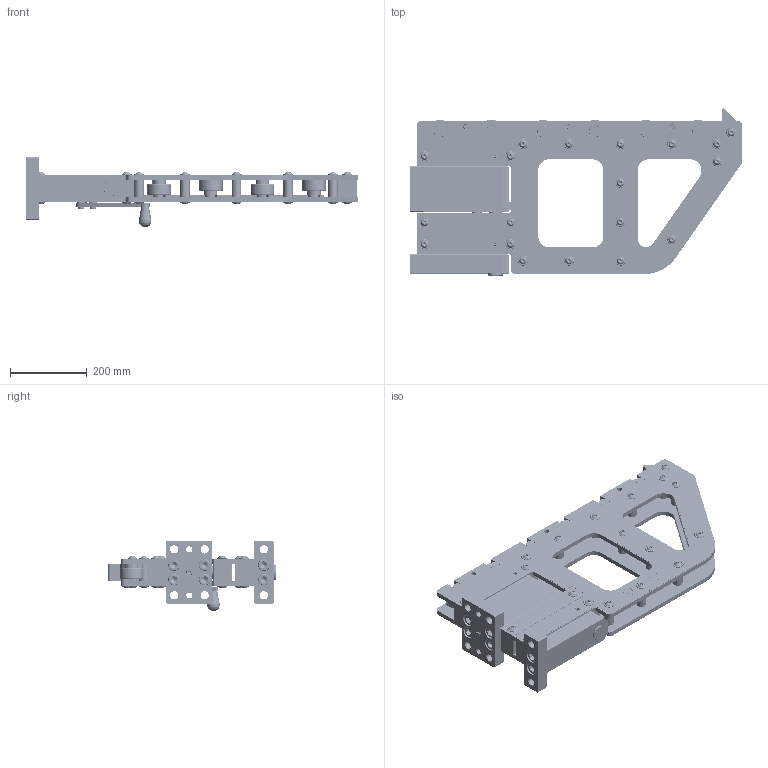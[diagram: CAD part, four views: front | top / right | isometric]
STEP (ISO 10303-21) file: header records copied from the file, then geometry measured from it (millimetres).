
FILE_DESCRIPTION(/* description */ ('CONSOLE PLATE RIGHT'),/* implementation_level */ '2;1');
FILE_NAME(/* name */ 'C:\Users\jaccow\AppData\Local\Temp\Cadac\NetworkPub\step\FB744-950.iam.stp',/* time_stamp */ '2017-12-14T13:47:07+01:00',/* author */ ('yue'),/* organization */ (''),/* preprocessor_version */ 'ST-DEVELOPER v16.1',/* originating_system */ 'Autodesk Inventor 2016',/* authorisation */ '');
FILE_SCHEMA (('AUTOMOTIVE_DESIGN { 1 0 10303 214 3 1 1 }'));
Products named in the file (40): FB748-101; FB698-186; CCE1230-028-9A; FB838-690; FB710-690; FB704-044; FB701-104; FB735-104; EU120147-109; FB749-101; DQ1533-120; CAE1120-1081A; FB877-026; FB878-026; FB834-298; FB746-950; FB646-101; FB837-690; CCA2031-0281A; FB647-070; PP0327-070; CAA1635-0612C; PP0329-155; PP0137-155; CBA1025-0281B; FB649-061; PP0140-110; PP0305-108; PP0379-130; PP0380-108; FB650-950; PP0310-071; FB705-104; CCA819-0285C; FB707-101; FB713-690; CCA2033-0281A; FB712-950; FB709-104; FB744-950
Assembly tree (125 placements, depth 3):
  FB744-950
    FB746-950
      FB748-101  x2
      FB698-186  x12
      CCE1230-028-9A  x41
      FB838-690
      FB710-690  x2
      FB704-044
      FB701-104  x7
      FB735-104  x6
      EU120147-109  x6
      FB749-101
      DQ1533-120  x3
      CAE1120-1081A  x3
      FB877-026
      FB878-026
      FB834-298
    FB650-950
      FB646-101
      FB837-690
      CCA2031-0281A  x4
      FB647-070
      PP0327-070
      CAA1635-0612C
      PP0329-155  x2
      PP0137-155
      CBA1025-0281B
      FB649-061
      PP0140-110
      PP0305-108  x2
      PP0379-130  x2
      PP0380-108  x2
    PP0310-071  x2
    FB705-104
    CCA819-0285C  x4
    FB712-950
      FB707-101
      FB713-690
      CCA2033-0281A  x2
      PP0329-155
    FB709-104
Bounding box: 868 x 436.67 x 184 mm (x, y, z)
Volume: 11467554.3 mm3; surface area: 2426830 mm2
Topology: 148 solids, 148 shells, 5009 faces, 12031 edges, 7813 vertices
Faces by surface type: plane 2691, bspline 1096, cylinder 540, cone 513, torus 168, sphere 1
Full cylindrical faces by diameter (mm): 1.875 x6, 3 x2, 4.2 x6, 6.466 x2, 6.647 x6, 6.648 x1, 8 x6, 8.376 x1, 8.4 x1, 9.42 x2, 10 x9, 10.1 x1, 10.106 x19, 10.5 x5, 11.5 x2, 12 x44, 13 x3, 13.5 x33, 14 x2, 15 x1, 16 x4, 16.1 x3, 17.294 x6, 19.95 x7, 20 x27, 20.1 x1, 21 x4, 21.5 x12, 22.425 x1, 24 x3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
Entity records: 108266 total; most frequent: CARTESIAN_POINT 33400, ORIENTED_EDGE 16302, DIRECTION 11587, EDGE_CURVE 8142, VERTEX_POINT 5551, LINE 5473, VECTOR 5473, EDGE_LOOP 4012
